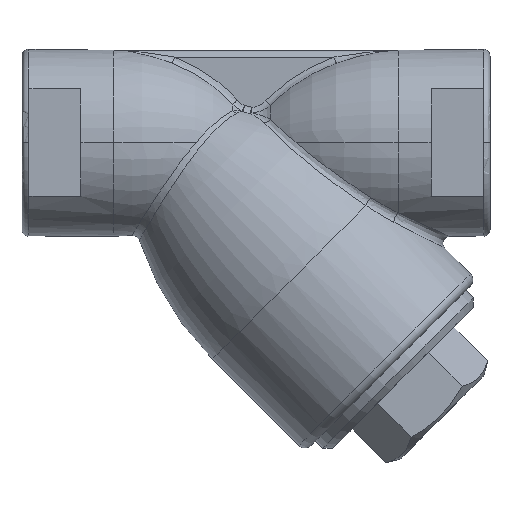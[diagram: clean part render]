
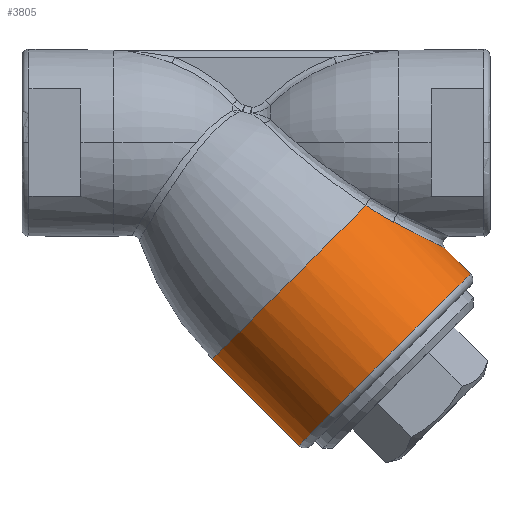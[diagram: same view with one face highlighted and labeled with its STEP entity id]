
A CAD part, top view. The second image highlights one B-rep face of the part: STEP entity #3805.
In plain terms, the highlighted cylindrical face has radius 35 mm (diameter 70 mm), a partial arc.
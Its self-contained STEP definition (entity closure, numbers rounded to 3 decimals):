
#29 = CARTESIAN_POINT ( 'NONE',  ( 62.612, -21.511, 19.515 ) ) ;
#32 = EDGE_LOOP ( 'NONE', ( #3583, #3836, #539, #3821, #791, #484 ) ) ;
#77 = CARTESIAN_POINT ( 'NONE',  ( 58.558, -19.066, 21.106 ) ) ;
#290 = CARTESIAN_POINT ( 'NONE',  ( 79.912, -30.414, 0. ) ) ;
#333 = CARTESIAN_POINT ( 'NONE',  ( 78.833, -29.879, 5.196 ) ) ;
#343 = DIRECTION ( 'NONE',  ( -0.707, 0.707, 0. ) ) ;
#360 = CARTESIAN_POINT ( 'NONE',  ( 65.291, -22.962, 18.142 ) ) ;
#378 = CARTESIAN_POINT ( 'NONE',  ( 37.83, -87.328, 0. ) ) ;
#417 = CARTESIAN_POINT ( 'NONE',  ( 57.208, -18.159, 21.508 ) ) ;
#430 = VECTOR ( 'NONE', #469, 1000. ) ;
#469 = DIRECTION ( 'NONE',  ( -0.707, 0.707, 0. ) ) ;
#484 = ORIENTED_EDGE ( 'NONE', *, *, #4153, .F. ) ;
#539 = ORIENTED_EDGE ( 'NONE', *, *, #804, .T. ) ;
#541 = EDGE_CURVE ( 'NONE', #4445, #2589, #1776, .T. ) ;
#695 = CARTESIAN_POINT ( 'NONE',  ( 79.37, -30.146, 3.706 ) ) ;
#744 = DIRECTION ( 'NONE',  ( -0.707, 0.707, 0. ) ) ;
#791 = ORIENTED_EDGE ( 'NONE', *, *, #541, .F. ) ;
#804 = EDGE_CURVE ( 'NONE', #989, #3115, #1623, .T. ) ;
#865 = CARTESIAN_POINT ( 'NONE',  ( 66.996, -23.861, 17.202 ) ) ;
#912 = CARTESIAN_POINT ( 'NONE',  ( 25.804, 23.693, 0. ) ) ;
#987 = DIRECTION ( 'NONE',  ( -0.707, -0.707, 0. ) ) ;
#989 = VERTEX_POINT ( 'NONE', #2211 ) ;
#1052 = AXIS2_PLACEMENT_3D ( 'NONE', #1748, #2888, #3567 ) ;
#1079 = CARTESIAN_POINT ( 'NONE',  ( 77.904, -29.416, 7.1 ) ) ;
#1086 = FACE_OUTER_BOUND ( 'NONE', #32, .T. ) ;
#1101 = CARTESIAN_POINT ( 'NONE',  ( 79.868, -30.393, 1.077 ) ) ;
#1287 = LINE ( 'NONE', #4010, #3178 ) ;
#1330 = CARTESIAN_POINT ( 'NONE',  ( 87.328, -37.83, 0. ) ) ;
#1410 = CARTESIAN_POINT ( 'NONE',  ( 79.634, -30.277, 2.679 ) ) ;
#1434 = CARTESIAN_POINT ( 'NONE',  ( 79.842, -30.379, 1.35 ) ) ;
#1623 = B_SPLINE_CURVE_WITH_KNOTS ( 'NONE', 3,
 ( #290, #2140, #3215, #1101, #1434, #4679, #1410, #695, #3606, #333, #2541, #1079, #1784, #4700, #4008, #4346, #3985, #2954, #3699, #4420, #865, #2234 ),
 .UNSPECIFIED., .F., .F.,
 ( 4, 2, 2, 2, 2, 2, 2, 2, 2, 2, 4 ),
 ( 0.026, 0.026, 0.027, 0.029, 0.03, 0.032, 0.035, 0.039, 0.042, 0.045, 0.051 ),
 .UNSPECIFIED. ) ;
#1649 = CARTESIAN_POINT ( 'NONE',  ( 37.683, -37.683, 0. ) ) ;
#1748 = CARTESIAN_POINT ( 'NONE',  ( 1.056, -1.056, 0. ) ) ;
#1776 = CIRCLE ( 'NONE', #3994, 35. ) ;
#1784 = CARTESIAN_POINT ( 'NONE',  ( 77.348, -29.139, 7.979 ) ) ;
#2049 = EDGE_CURVE ( 'NONE', #3115, #2589, #3586, .T. ) ;
#2140 = CARTESIAN_POINT ( 'NONE',  ( 79.912, -30.414, 0.268 ) ) ;
#2149 = CARTESIAN_POINT ( 'NONE',  ( 65.291, -22.962, 18.142 ) ) ;
#2197 = CYLINDRICAL_SURFACE ( 'NONE', #1052, 35. ) ;
#2211 = CARTESIAN_POINT ( 'NONE',  ( 79.912, -30.414, 0. ) ) ;
#2234 = CARTESIAN_POINT ( 'NONE',  ( 65.291, -22.962, 18.142 ) ) ;
#2402 = VERTEX_POINT ( 'NONE', #1330 ) ;
#2541 = CARTESIAN_POINT ( 'NONE',  ( 78.617, -29.772, 5.681 ) ) ;
#2589 = VERTEX_POINT ( 'NONE', #417 ) ;
#2602 = EDGE_CURVE ( 'NONE', #4550, #2402, #4475, .T. ) ;
#2735 = DIRECTION ( 'NONE',  ( -0.707, 0.707, 0. ) ) ;
#2888 = DIRECTION ( 'NONE',  ( -0.707, 0.707, 0. ) ) ;
#2954 = CARTESIAN_POINT ( 'NONE',  ( 71.81, -26.343, 13.851 ) ) ;
#2965 = LINE ( 'NONE', #912, #430 ) ;
#3115 = VERTEX_POINT ( 'NONE', #2149 ) ;
#3178 = VECTOR ( 'NONE', #744, 1000. ) ;
#3182 = EDGE_CURVE ( 'NONE', #2402, #989, #2965, .T. ) ;
#3215 = CARTESIAN_POINT ( 'NONE',  ( 79.903, -30.41, 0.537 ) ) ;
#3252 = DIRECTION ( 'NONE',  ( 0.707, 0.707, 0. ) ) ;
#3296 = CARTESIAN_POINT ( 'NONE',  ( 63.958, -22.259, 18.877 ) ) ;
#3348 = CARTESIAN_POINT ( 'NONE',  ( 59.912, -19.914, 20.629 ) ) ;
#3381 = CARTESIAN_POINT ( 'NONE',  ( 12.935, -62.432, 0. ) ) ;
#3567 = DIRECTION ( 'NONE',  ( -0.707, -0.707, 0. ) ) ;
#3583 = ORIENTED_EDGE ( 'NONE', *, *, #2602, .T. ) ;
#3586 = B_SPLINE_CURVE_WITH_KNOTS ( 'NONE', 3,
 ( #360, #3296, #29, #3348, #77, #4423 ),
 .UNSPECIFIED., .F., .F.,
 ( 4, 2, 4 ),
 ( 0., 0.005, 0.01 ),
 .UNSPECIFIED. ) ;
#3606 = CARTESIAN_POINT ( 'NONE',  ( 79.209, -30.066, 4.209 ) ) ;
#3699 = CARTESIAN_POINT ( 'NONE',  ( 71.034, -25.946, 14.455 ) ) ;
#3805 = ADVANCED_FACE ( 'NONE', ( #1086 ), #2197, .T. ) ;
#3821 = ORIENTED_EDGE ( 'NONE', *, *, #2049, .T. ) ;
#3836 = ORIENTED_EDGE ( 'NONE', *, *, #3182, .T. ) ;
#3985 = CARTESIAN_POINT ( 'NONE',  ( 73.317, -27.11, 12.567 ) ) ;
#3994 = AXIS2_PLACEMENT_3D ( 'NONE', #1649, #2735, #987 ) ;
#4008 = CARTESIAN_POINT ( 'NONE',  ( 75.449, -28.187, 10.428 ) ) ;
#4010 = CARTESIAN_POINT ( 'NONE',  ( -23.693, -25.804, 0. ) ) ;
#4089 = CARTESIAN_POINT ( 'NONE',  ( 62.579, -62.579, 0. ) ) ;
#4091 = AXIS2_PLACEMENT_3D ( 'NONE', #4089, #343, #3252 ) ;
#4153 = EDGE_CURVE ( 'NONE', #4550, #4445, #1287, .T. ) ;
#4346 = CARTESIAN_POINT ( 'NONE',  ( 74.048, -27.48, 11.887 ) ) ;
#4420 = CARTESIAN_POINT ( 'NONE',  ( 68.653, -24.722, 16.175 ) ) ;
#4423 = CARTESIAN_POINT ( 'NONE',  ( 57.208, -18.159, 21.508 ) ) ;
#4445 = VERTEX_POINT ( 'NONE', #3381 ) ;
#4475 = CIRCLE ( 'NONE', #4091, 35. ) ;
#4550 = VERTEX_POINT ( 'NONE', #378 ) ;
#4679 = CARTESIAN_POINT ( 'NONE',  ( 79.737, -30.328, 2.154 ) ) ;
#4700 = CARTESIAN_POINT ( 'NONE',  ( 76.123, -28.525, 9.642 ) ) ;
